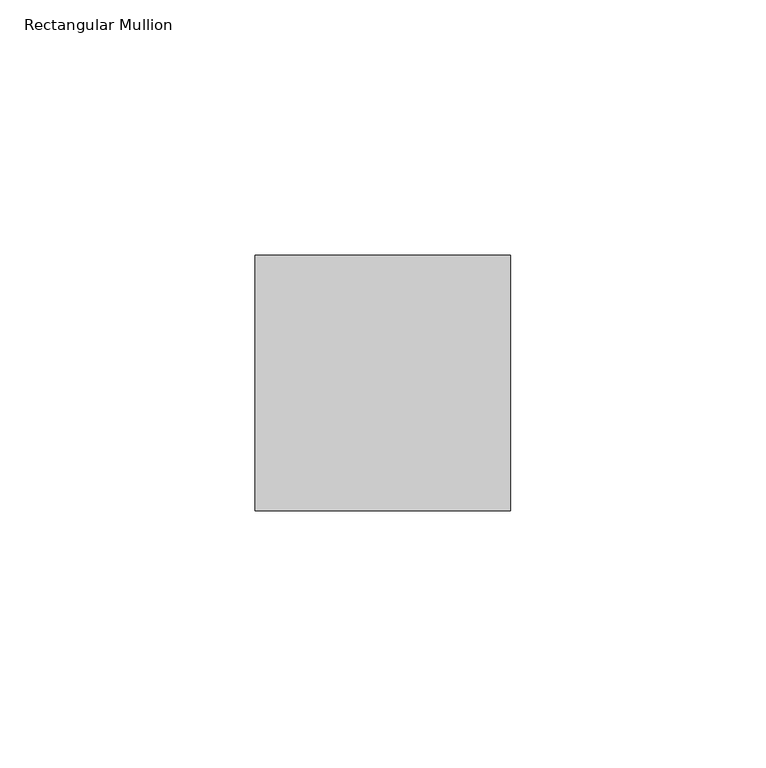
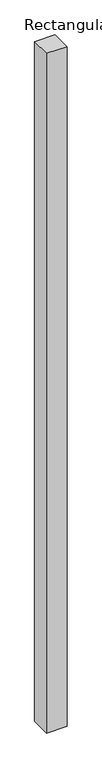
"""IFC4 building model written with IfcOpenShell, lengths in millimetres: member geometry, Rectangular Mullion : Mullion_Curtain Wall_Generic Showcase_50x50mm."""

import ifcopenshell
import ifcopenshell.guid

model = None  # the IFC model being written
_history = None  # IfcOwnerHistory: only IFC2X3 demands one
_inside = {}  # id of a spatial element -> (the spatial element, [elements in it])
_under = {}  # id of a project, library or spatial element -> (it, [spatial elements below it])
_declared = {}  # id of a project -> (the project, [libraries it declares])
_typed = {}  # id of a type object -> (the type object, [elements of that type])
_made_of = {}  # id of a material, layer set ... -> (it, [elements and type objects made of it])


def new_model(schema):
    """Start an empty IFC model of exactly this schema.

    Asked for "IFC4X3", IfcOpenShell would pick the latest addendum, in which some entities
    have other attributes; the version numbers below select the first issue.
    IFC2X3 requires an IfcOwnerHistory on every rooted entity: one is made here for all.
    """
    global model, _history
    if schema == "IFC4X3":
        model = ifcopenshell.file(schema_version=(4, 3, 0, 0))
    else:
        model = ifcopenshell.file(schema=schema)
    _inside.clear()
    _under.clear()
    _declared.clear()
    _typed.clear()
    _made_of.clear()
    _history = None
    if model.schema == "IFC2X3":
        org = make("IfcOrganization", Name="unknown")
        user = make(
            "IfcPersonAndOrganization",
            ThePerson=make("IfcPerson", FamilyName="unknown"),
            TheOrganization=org,
        )
        app = make(
            "IfcApplication",
            ApplicationDeveloper=org,
            Version="unknown",
            ApplicationFullName="unknown",
            ApplicationIdentifier="unknown",
        )
        _history = make(
            "IfcOwnerHistory",
            OwningUser=user,
            OwningApplication=app,
            ChangeAction="ADDED",
            CreationDate=0,
        )
    return model


def make(cls, **values):
    """One entity of the class cls with the attributes given. An attribute that is None is left unset."""
    return model.create_entity(
        cls, **{name: value for name, value in values.items() if value is not None}
    )


def rooted(cls, **values):
    """An entity with a GlobalId (a new one), such as an element, a storey or a relation."""
    return make(cls, GlobalId=ifcopenshell.guid.new(), OwnerHistory=_history, **values)


def si_unit(unit_type, name, prefix=None):
    """IfcSIUnit, for example si_unit("LENGTHUNIT", "METRE", prefix="MILLI")."""
    return make("IfcSIUnit", UnitType=unit_type, Prefix=prefix, Name=name)


def assignment(units):
    """IfcUnitAssignment: the units of a project."""
    return None if units is None else make("IfcUnitAssignment", Units=units)


def point(xyz):
    """IfcCartesianPoint."""
    return None if xyz is None else make("IfcCartesianPoint", Coordinates=xyz)


def direction(xyz):
    """IfcDirection."""
    return None if xyz is None else make("IfcDirection", DirectionRatios=xyz)


def frame(location, z_axis=None, x_axis=None):
    """IfcAxis2Placement3D, a coordinate frame: its origin and axes. An axis left out is left unset."""
    return make(
        "IfcAxis2Placement3D",
        Location=point(location),
        Axis=direction(z_axis),
        RefDirection=direction(x_axis),
    )


def origin():
    """The frame at (0, 0, 0) with its axes left unset."""
    return frame((0.0, 0.0, 0.0))


def place(relative_to, where):
    """IfcLocalPlacement: puts the frame where relative to a parent placement (None: the world)."""
    return make(
        "IfcLocalPlacement", PlacementRelTo=relative_to, RelativePlacement=where
    )


def context(
    kind, dimensions, precision=None, world=None, true_north=None, identifier=None
):
    """IfcGeometricRepresentationContext, for example the 3D "Model" context."""
    return make(
        "IfcGeometricRepresentationContext",
        ContextIdentifier=identifier,
        ContextType=kind,
        CoordinateSpaceDimension=dimensions,
        Precision=precision,
        WorldCoordinateSystem=world,
        TrueNorth=true_north,
    )


def project(units=None, contexts=None):
    """IfcProject with its units and contexts."""
    return rooted(
        "IfcProject",
        Name="project",
        RepresentationContexts=contexts,
        UnitsInContext=assignment(units),
    )


def spatial(cls, under=None, at=None, **own):
    """A site, building, storey or space (cls), placed at a placement, below another one or the project."""
    s = rooted(cls, ObjectPlacement=at, **own)
    if under is not None:
        _under.setdefault(under.id(), (under, []))[1].append(s)
    return s


def polyline(points):
    """IfcPolyline through the points."""
    return make("IfcPolyline", Points=[point(p) for p in points])


def outline(outer, holes=None, kind="AREA"):
    """IfcArbitraryClosedProfileDef: a profile drawn as a closed curve; with holes, ...WithVoids."""
    if holes is None:
        return make("IfcArbitraryClosedProfileDef", ProfileType=kind, OuterCurve=outer)
    return make(
        "IfcArbitraryProfileDefWithVoids",
        ProfileType=kind,
        OuterCurve=outer,
        InnerCurves=holes,
    )


def extrude(swept, where, along, depth):
    """IfcExtrudedAreaSolid: the profile swept, set in the frame where, extruded along a direction by depth."""
    return make(
        "IfcExtrudedAreaSolid",
        SweptArea=swept,
        Position=where,
        ExtrudedDirection=direction(along),
        Depth=depth,
    )


def shape(context_of_items, identifier, shape_type, items):
    """IfcShapeRepresentation: the items that make up one representation, for example the "Body"."""
    return make(
        "IfcShapeRepresentation",
        ContextOfItems=context_of_items,
        RepresentationIdentifier=identifier,
        RepresentationType=shape_type,
        Items=items,
    )


def source(mapping_origin, context_of_items, identifier, shape_type, items):
    """IfcRepresentationMap: a shape defined once, which mapped items show again and again."""
    return make(
        "IfcRepresentationMap",
        MappingOrigin=mapping_origin,
        MappedRepresentation=shape(context_of_items, identifier, shape_type, items),
    )


def transform(
    local_origin,
    x_axis=None,
    y_axis=None,
    z_axis=None,
    scale=None,
    scale2=None,
    scale3=None,
    uniform=True,
):
    """IfcCartesianTransformationOperator3D, or its non-uniform kind. x_axis, y_axis, z_axis: its Axis1, 2, 3."""
    if uniform:
        return make(
            "IfcCartesianTransformationOperator3D",
            Axis1=direction(x_axis),
            Axis2=direction(y_axis),
            LocalOrigin=point(local_origin),
            Scale=scale,
            Axis3=direction(z_axis),
        )
    return make(
        "IfcCartesianTransformationOperator3DnonUniform",
        Axis1=direction(x_axis),
        Axis2=direction(y_axis),
        LocalOrigin=point(local_origin),
        Scale=scale,
        Axis3=direction(z_axis),
        Scale2=scale2,
        Scale3=scale3,
    )


def mapped(mapping_source, mapping_target):
    """IfcMappedItem: shows the shape of a source again, moved by a transform."""
    return make(
        "IfcMappedItem", MappingSource=mapping_source, MappingTarget=mapping_target
    )


def made_of(thing, what):
    """Note that an element or type object is made of a material, layer set ...; save() writes the relation."""
    if what is not None:
        _made_of.setdefault(what.id(), (what, []))[1].append(thing)
    return thing


def element(
    cls,
    number,
    at=None,
    inside=None,
    cuts=None,
    type_object=None,
    material=None,
    context=None,
    identifier="Body",
    shape_type=None,
    held_by="IfcProductDefinitionShape",
    body=None,
    shapes=None,
    **own,
):
    """One element of the class cls, such as IfcWall. Its Tag is "e" and its number.

    at: its placement. inside: the storey or other place that contains it. cuts: it is an
    opening in that element (IfcRelVoidsElement). A single representation is given by context,
    identifier, shape_type and body (its items); several are given by shapes. held_by: the class
    of the entity that holds the representations. save() writes the other relations.
    """
    e = rooted(cls, Tag="e%d" % number, ObjectPlacement=at, **own)
    if body is not None:
        shapes = [shape(context, identifier, shape_type, body)]
    if shapes is not None:
        e.Representation = make(held_by, Representations=shapes)
    if inside is not None:
        _inside.setdefault(inside.id(), (inside, []))[1].append(e)
    if cuts is not None:
        rooted(
            "IfcRelVoidsElement", RelatingBuildingElement=cuts, RelatedOpeningElement=e
        )
    if type_object is not None:
        _typed.setdefault(type_object.id(), (type_object, []))[1].append(e)
    return made_of(e, material)


def aggregate(whole, parts):
    """IfcRelAggregates: a whole, such as a stair, and the parts it consists of."""
    return rooted("IfcRelAggregates", RelatingObject=whole, RelatedObjects=parts)


def save(model, path):
    """Write the relations noted so far, then the file.

    IfcRelAggregates (storeys below a building ...), IfcRelContainedInSpatialStructure (elements
    in a storey), IfcRelDefinesByType, IfcRelAssociatesMaterial and IfcRelDeclares: one each for
    every whole, place, type object, material and project.
    """
    for whole, parts in _under.values():
        aggregate(whole, parts)
    for where, things in _inside.values():
        rooted(
            "IfcRelContainedInSpatialStructure",
            RelatedElements=things,
            RelatingStructure=where,
        )
    for kind, things in _typed.values():
        rooted("IfcRelDefinesByType", RelatedObjects=things, RelatingType=kind)
    for what, things in _made_of.values():
        rooted("IfcRelAssociatesMaterial", RelatedObjects=things, RelatingMaterial=what)
    for by, libraries in _declared.values():
        rooted("IfcRelDeclares", RelatingContext=by, RelatedDefinitions=libraries)
    model.write(path)


def rectangular_mullion_cadd6f80(model_context):
    return source(origin(), model_context, "Body", "SweptSolid", [
        extrude(outline(polyline([(0.0, 50.0), (0.0, 0.0), (-50.0, 0.0), (-50.0, 50.0), (0.0, 50.0)])), frame((0.0, 0.0, -1751.9795478), z_axis=(0.0, 0.0, 1.0), x_axis=(1.0, 0.0, 0.0)), (0.0, 0.0, 1.0), 1751.9795478),
    ])


if __name__ == "__main__":
    model = new_model("IFC4")
    model_context = context("Model", 3, world=origin())
    ifc_project = project(units=[si_unit("LENGTHUNIT", "METRE", prefix="MILLI")], contexts=[model_context])
    site = spatial("IfcSite", under=ifc_project)
    building = spatial("IfcBuilding", under=site)
    placement = place(None, origin())
    rectangular_mullion_shape = rectangular_mullion_cadd6f80(model_context)
    element("IfcMember", 1, ObjectType="Rectangular Mullion : Mullion_Curtain Wall_Generic Showcase_50x50mm", at=placement, inside=building, context=model_context, shape_type="MappedRepresentation", body=[
        mapped(rectangular_mullion_shape, transform((0.0, 0.0, 0.0), x_axis=(1.0, 0.0, 0.0), y_axis=(0.0, 1.0, 0.0), z_axis=(0.0, 0.0, 1.0))),
    ])
    save(model, "model.ifc")
